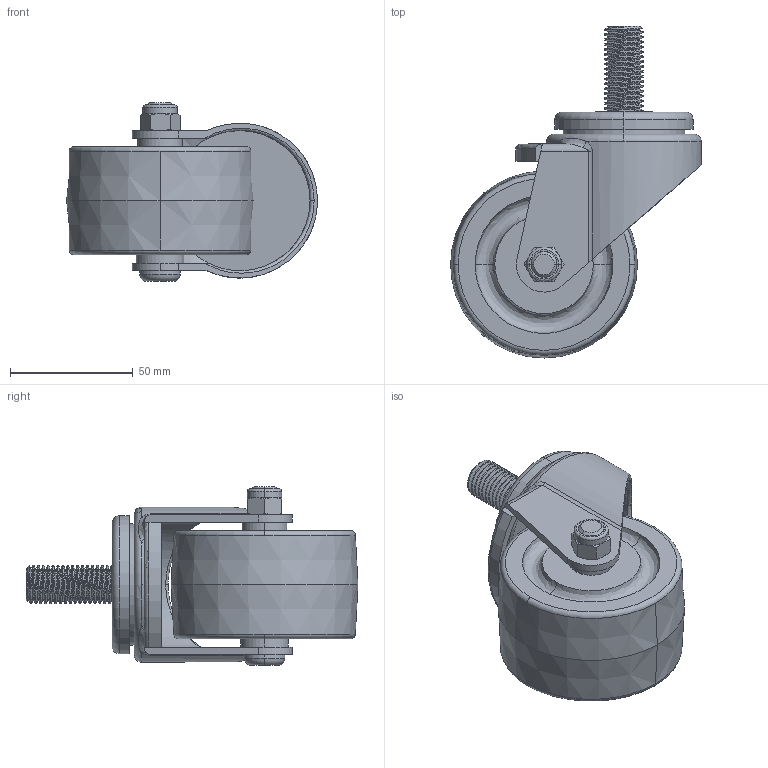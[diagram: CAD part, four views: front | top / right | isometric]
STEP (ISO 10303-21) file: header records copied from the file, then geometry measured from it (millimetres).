
FILE_DESCRIPTION (( 'STEP AP203' ), '1' );
FILE_NAME ('FN-A3202.STEP', '2015-11-18T07:25:52', ( '' ), ( '' ), 'SwSTEP 2.0', 'SolidWorks 2014', '' );
FILE_SCHEMA (( 'CONFIG_CONTROL_DESIGN' ));
Length unit declared in the file: millimetre
Products named in the file (1): FN-A3202
Bounding box: 102 x 135 x 72.76 mm (x, y, z)
Volume: 241754.7 mm3; surface area: 49503.7 mm2
Topology: 2 solids, 2 shells, 162 faces, 395 edges, 251 vertices
Faces by surface type: cylinder 72, plane 37, cone 22, bspline 16, torus 15
Entity records: 9056 total; most frequent: CARTESIAN_POINT 5515, ORIENTED_EDGE 790, DIRECTION 668, EDGE_CURVE 395, AXIS2_PLACEMENT_3D 277, VERTEX_POINT 251, EDGE_LOOP 178, FACE_OUTER_BOUND 162
